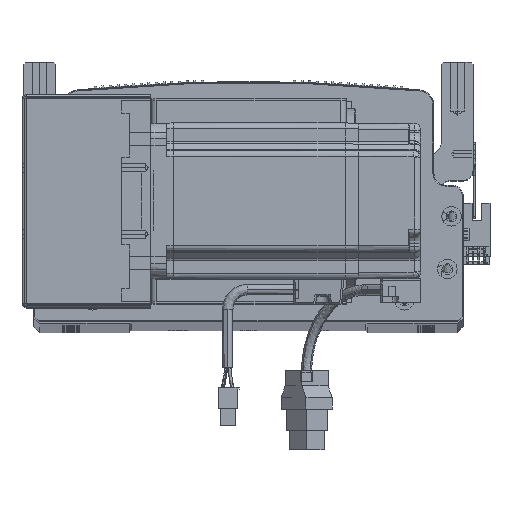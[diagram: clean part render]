
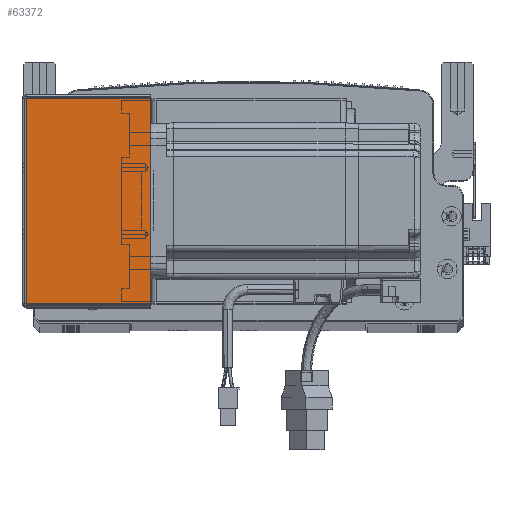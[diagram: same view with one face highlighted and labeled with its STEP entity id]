
A CAD part, top view. The second image highlights one B-rep face of the part: STEP entity #63372.
In plain terms, the highlighted planar face has unit normal (0, 0, 1) as drawn and (0, 0, -1) by its records, which use the part's own axes.
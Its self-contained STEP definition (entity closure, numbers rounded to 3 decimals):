
#405 = CARTESIAN_POINT ( 'NONE',  ( 64.5, 0.707, -205.5 ) ) ;
#8992 = VERTEX_POINT ( 'NONE', #90086 ) ;
#13324 = VECTOR ( 'NONE', #22547, 1000. ) ;
#22547 = DIRECTION ( 'NONE',  ( 1., 0., 0. ) ) ;
#23216 = DIRECTION ( 'NONE',  ( 0., -1., 0. ) ) ;
#25141 = LINE ( 'NONE', #90580, #82133 ) ;
#30770 = VERTEX_POINT ( 'NONE', #60765 ) ;
#31734 = EDGE_CURVE ( 'NONE', #95536, #30770, #52426, .T. ) ;
#33274 = DIRECTION ( 'NONE',  ( 0., 0., 1. ) ) ;
#33594 = DIRECTION ( 'NONE',  ( 1., 0., 0. ) ) ;
#37904 = CARTESIAN_POINT ( 'NONE',  ( 64.5, 0., -205.5 ) ) ;
#39443 = EDGE_LOOP ( 'NONE', ( #72809, #55389, #52875, #49073 ) ) ;
#40717 = CARTESIAN_POINT ( 'NONE',  ( 0., 0., -205.5 ) ) ;
#41835 = DIRECTION ( 'NONE',  ( 1., 0., 0. ) ) ;
#45042 = DIRECTION ( 'NONE',  ( 0., -1., 0. ) ) ;
#49073 = ORIENTED_EDGE ( 'NONE', *, *, #75751, .F. ) ;
#52044 = VECTOR ( 'NONE', #45042, 1000. ) ;
#52426 = LINE ( 'NONE', #71155, #85037 ) ;
#52875 = ORIENTED_EDGE ( 'NONE', *, *, #96437, .T. ) ;
#55389 = ORIENTED_EDGE ( 'NONE', *, *, #31734, .T. ) ;
#60765 = CARTESIAN_POINT ( 'NONE',  ( 64.5, 105.293, -205.5 ) ) ;
#62166 = VERTEX_POINT ( 'NONE', #405 ) ;
#62826 = PLANE ( 'NONE',  #70699 ) ;
#63372 = ADVANCED_FACE ( 'NONE', ( #90931 ), #62826, .F. ) ;
#65699 = LINE ( 'NONE', #96101, #13324 ) ;
#69510 = LINE ( 'NONE', #37904, #52044 ) ;
#70699 = AXIS2_PLACEMENT_3D ( 'NONE', #40717, #33274, #33594 ) ;
#71155 = CARTESIAN_POINT ( 'NONE',  ( 0., 105.293, -205.5 ) ) ;
#72809 = ORIENTED_EDGE ( 'NONE', *, *, #84667, .F. ) ;
#75751 = EDGE_CURVE ( 'NONE', #8992, #62166, #65699, .T. ) ;
#78713 = CARTESIAN_POINT ( 'NONE',  ( 0.737, 105.293, -205.5 ) ) ;
#82133 = VECTOR ( 'NONE', #23216, 1000. ) ;
#84667 = EDGE_CURVE ( 'NONE', #95536, #8992, #25141, .T. ) ;
#85037 = VECTOR ( 'NONE', #41835, 1000. ) ;
#90086 = CARTESIAN_POINT ( 'NONE',  ( 0.737, 0.707, -205.5 ) ) ;
#90580 = CARTESIAN_POINT ( 'NONE',  ( 0.737, 0., -205.5 ) ) ;
#90931 = FACE_OUTER_BOUND ( 'NONE', #39443, .T. ) ;
#95536 = VERTEX_POINT ( 'NONE', #78713 ) ;
#96101 = CARTESIAN_POINT ( 'NONE',  ( 0., 0.707, -205.5 ) ) ;
#96437 = EDGE_CURVE ( 'NONE', #30770, #62166, #69510, .T. ) ;
